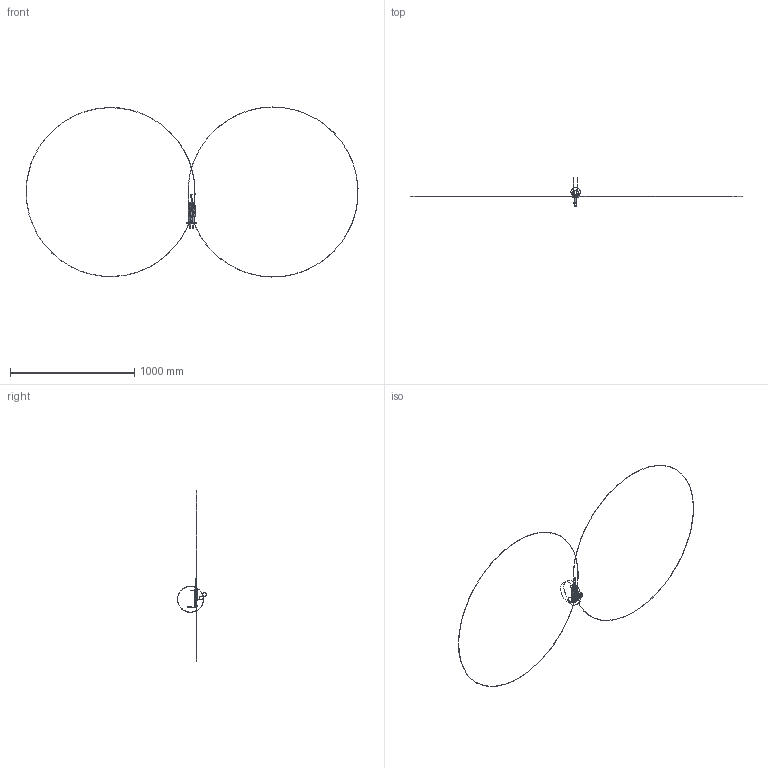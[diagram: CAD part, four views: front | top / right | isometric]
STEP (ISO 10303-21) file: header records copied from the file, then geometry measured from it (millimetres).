
FILE_DESCRIPTION((''),'2;1');
FILE_NAME('H4N_ASM','2014-06-03T',('user'),(''),'PRO/ENGINEER BY PARAMETRIC TECHNOLOGY CORPORATION, 2008090','PRO/ENGINEER BY PARAMETRIC TECHNOLOGY CORPORATION, 2008090','');
FILE_SCHEMA(('CONFIG_CONTROL_DESIGN'));
Products named in the file (1): H4N_ASM
Bounding box: 2671.22 x 231.91 x 1368.38 mm (x, y, z)
Surface area: 153677.5 mm2 (no closed solid volume)
Topology: 0 solids, 0 shells, 1956 faces, 10881 edges, 10763 vertices
Faces by surface type: bspline 1832, torus 110, sphere 14
Entity records: 165419 total; most frequent: CARTESIAN_POINT 71099, DIRECTION 14527, TRIMMED_CURVE 12797, VECTOR 11315, LINE 11315, DEFINITIONAL_REPRESENTATION 10659, PCURVE 10659, COMPOSITE_CURVE_SEGMENT 10659
